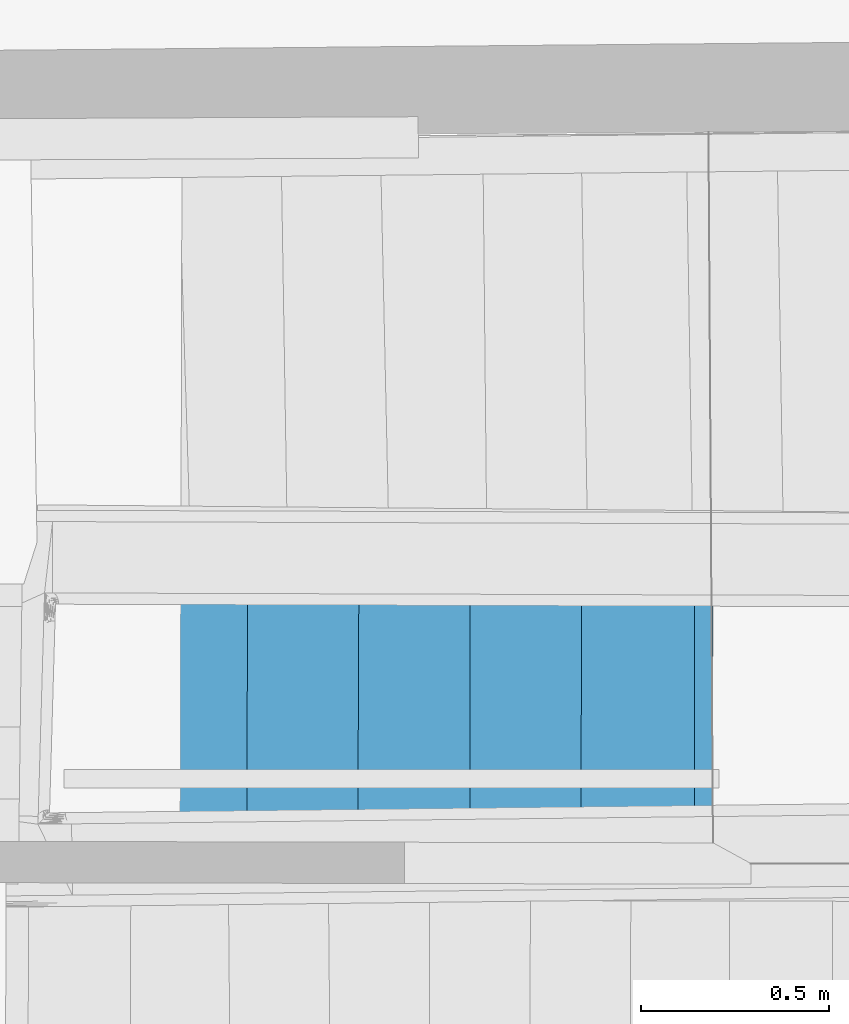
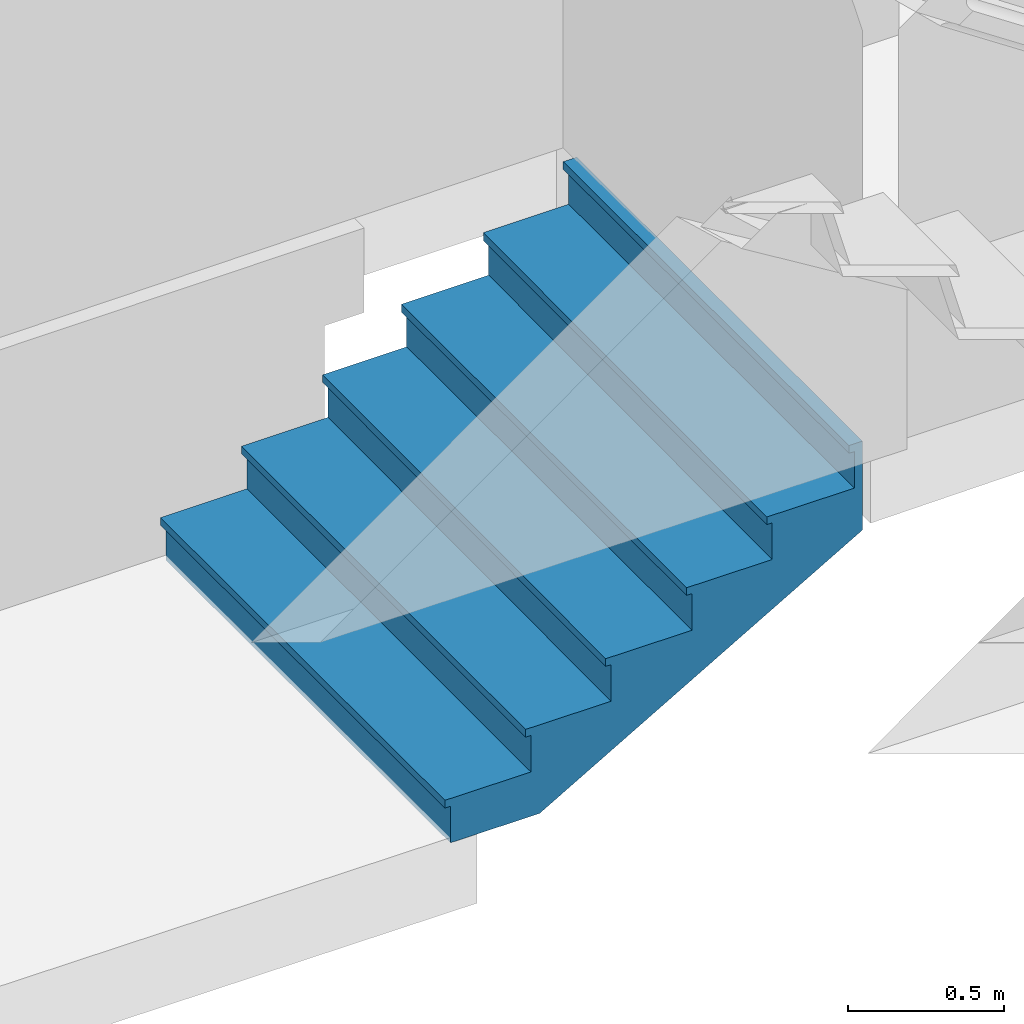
# One storey, part 74 of 97: 1 stair flight, 1 element without a shape of its own.
"""IFC2X3 building model written with IfcOpenShell, lengths in centimetres."""

import ifcopenshell
import ifcopenshell.guid

model = None  # the IFC model being written
_history = None  # IfcOwnerHistory: only IFC2X3 demands one
_inside = {}  # id of a spatial element -> (the spatial element, [elements in it])
_under = {}  # id of a project, library or spatial element -> (it, [spatial elements below it])
_declared = {}  # id of a project -> (the project, [libraries it declares])
_typed = {}  # id of a type object -> (the type object, [elements of that type])
_made_of = {}  # id of a material, layer set ... -> (it, [elements and type objects made of it])


def new_model(schema):
    """Start an empty IFC model of exactly this schema.

    Asked for "IFC4X3", IfcOpenShell would pick the latest addendum, in which some entities
    have other attributes; the version numbers below select the first issue.
    IFC2X3 requires an IfcOwnerHistory on every rooted entity: one is made here for all.
    """
    global model, _history
    if schema == "IFC4X3":
        model = ifcopenshell.file(schema_version=(4, 3, 0, 0))
    else:
        model = ifcopenshell.file(schema=schema)
    _inside.clear()
    _under.clear()
    _declared.clear()
    _typed.clear()
    _made_of.clear()
    _history = None
    if model.schema == "IFC2X3":
        org = make("IfcOrganization", Name="unknown")
        user = make(
            "IfcPersonAndOrganization",
            ThePerson=make("IfcPerson", FamilyName="unknown"),
            TheOrganization=org,
        )
        app = make(
            "IfcApplication",
            ApplicationDeveloper=org,
            Version="unknown",
            ApplicationFullName="unknown",
            ApplicationIdentifier="unknown",
        )
        _history = make(
            "IfcOwnerHistory",
            OwningUser=user,
            OwningApplication=app,
            ChangeAction="ADDED",
            CreationDate=0,
        )
    return model


def make(cls, **values):
    """One entity of the class cls with the attributes given. An attribute that is None is left unset."""
    return model.create_entity(
        cls, **{name: value for name, value in values.items() if value is not None}
    )


def entity(cls, *values):
    """Any entity or typed value of the class cls, its attributes in the order of the schema. None: left unset."""
    e = model.create_entity(cls)
    for i, value in enumerate(values):
        if value is not None:
            e[i] = value
    return e


def rooted(cls, **values):
    """An entity with a GlobalId (a new one), such as an element, a storey or a relation."""
    return make(cls, GlobalId=ifcopenshell.guid.new(), OwnerHistory=_history, **values)


def si_unit(unit_type, name, prefix=None):
    """IfcSIUnit, for example si_unit("LENGTHUNIT", "METRE", prefix="MILLI")."""
    return make("IfcSIUnit", UnitType=unit_type, Prefix=prefix, Name=name)


def converted_unit(unit_type, name, factor, base, dimensions=None, offset=None):
    """IfcConversionBasedUnit, such as the inch: factor (a typed value) times the base unit."""
    return make(
        "IfcConversionBasedUnit"
        if offset is None
        else "IfcConversionBasedUnitWithOffset",
        ConversionOffset=offset,
        Dimensions=None
        if dimensions is None
        else entity("IfcDimensionalExponents", *dimensions),
        UnitType=unit_type,
        Name=name,
        ConversionFactor=make(
            "IfcMeasureWithUnit", ValueComponent=factor, UnitComponent=base
        ),
    )


def assignment(units):
    """IfcUnitAssignment: the units of a project."""
    return None if units is None else make("IfcUnitAssignment", Units=units)


def point(xyz):
    """IfcCartesianPoint."""
    return None if xyz is None else make("IfcCartesianPoint", Coordinates=xyz)


def direction(xyz):
    """IfcDirection."""
    return None if xyz is None else make("IfcDirection", DirectionRatios=xyz)


def frame(location, z_axis=None, x_axis=None):
    """IfcAxis2Placement3D, a coordinate frame: its origin and axes. An axis left out is left unset."""
    return make(
        "IfcAxis2Placement3D",
        Location=point(location),
        Axis=direction(z_axis),
        RefDirection=direction(x_axis),
    )


def origin():
    """The frame at (0, 0, 0) with its axes left unset."""
    return frame((0.0, 0.0, 0.0))


def origin_with_axes():
    """The frame at (0, 0, 0) with the z axis (0, 0, 1) and the x axis (1, 0, 0) written out."""
    return frame((0.0, 0.0, 0.0), z_axis=(0.0, 0.0, 1.0), x_axis=(1.0, 0.0, 0.0))


def place(relative_to, where):
    """IfcLocalPlacement: puts the frame where relative to a parent placement (None: the world)."""
    return make(
        "IfcLocalPlacement", PlacementRelTo=relative_to, RelativePlacement=where
    )


def context(
    kind, dimensions, precision=None, world=None, true_north=None, identifier=None
):
    """IfcGeometricRepresentationContext, for example the 3D "Model" context."""
    return make(
        "IfcGeometricRepresentationContext",
        ContextIdentifier=identifier,
        ContextType=kind,
        CoordinateSpaceDimension=dimensions,
        Precision=precision,
        WorldCoordinateSystem=world,
        TrueNorth=true_north,
    )


def subcontext(parent, identifier, kind, view, scale=None):
    """IfcGeometricRepresentationSubContext, for example "Body" below "Model"."""
    return make(
        "IfcGeometricRepresentationSubContext",
        ContextIdentifier=identifier,
        ContextType=kind,
        ParentContext=parent,
        TargetScale=scale,
        TargetView=view,
    )


def project(units=None, contexts=None):
    """IfcProject with its units and contexts."""
    return rooted(
        "IfcProject",
        Name="project",
        RepresentationContexts=contexts,
        UnitsInContext=assignment(units),
    )


def spatial(cls, under=None, at=None, **own):
    """A site, building, storey or space (cls), placed at a placement, below another one or the project."""
    s = rooted(cls, ObjectPlacement=at, **own)
    if under is not None:
        _under.setdefault(under.id(), (under, []))[1].append(s)
    return s


def faces_of(points, faces, orient=None, outer=None):
    """IfcFace entities. A face is a list of loops; a loop is a list of indices into points, from 0.

    orient and outer hold one flag for each loop. By default every Orientation is true, the
    first loop of a face is its IfcFaceOuterBound and the others are IfcFaceBound.
    """
    made = []
    for i, loops in enumerate(faces):
        bounds = []
        for j, loop in enumerate(loops):
            is_outer = j == 0 if outer is None else outer[i][j]
            bounds.append(
                make(
                    "IfcFaceOuterBound" if is_outer else "IfcFaceBound",
                    Bound=make("IfcPolyLoop", Polygon=[points[k] for k in loop]),
                    Orientation=True if orient is None else orient[i][j],
                )
            )
        made.append(make("IfcFace", Bounds=bounds))
    return made


def faceted_brep(points, faces, orient=None, outer=None, voids=None):
    """IfcFacetedBrep: a solid bounded by flat faces; with voids (closed shells), ...WithVoids."""
    shared = [point(p) for p in points]
    hull = make("IfcClosedShell", CfsFaces=faces_of(shared, faces, orient, outer))
    if voids is None:
        return make("IfcFacetedBrep", Outer=hull)
    return make(
        "IfcFacetedBrepWithVoids",
        Outer=hull,
        Voids=[
            make(cls, CfsFaces=faces_of(shared, fs, o, b)) for cls, fs, o, b in voids
        ],
    )


def shape(context_of_items, identifier, shape_type, items):
    """IfcShapeRepresentation: the items that make up one representation, for example the "Body"."""
    return make(
        "IfcShapeRepresentation",
        ContextOfItems=context_of_items,
        RepresentationIdentifier=identifier,
        RepresentationType=shape_type,
        Items=items,
    )


def material(Name=None, Category=None):
    """IfcMaterial."""
    return make("IfcMaterial", Name=Name, Category=Category)


def made_of(thing, what):
    """Note that an element or type object is made of a material, layer set ...; save() writes the relation."""
    if what is not None:
        _made_of.setdefault(what.id(), (what, []))[1].append(thing)
    return thing


def element(
    cls,
    number,
    at=None,
    inside=None,
    cuts=None,
    type_object=None,
    material=None,
    context=None,
    identifier="Body",
    shape_type=None,
    held_by="IfcProductDefinitionShape",
    body=None,
    shapes=None,
    **own,
):
    """One element of the class cls, such as IfcWall. Its Tag is "e" and its number.

    at: its placement. inside: the storey or other place that contains it. cuts: it is an
    opening in that element (IfcRelVoidsElement). A single representation is given by context,
    identifier, shape_type and body (its items); several are given by shapes. held_by: the class
    of the entity that holds the representations. save() writes the other relations.
    """
    e = rooted(cls, Tag="e%d" % number, ObjectPlacement=at, **own)
    if body is not None:
        shapes = [shape(context, identifier, shape_type, body)]
    if shapes is not None:
        e.Representation = make(held_by, Representations=shapes)
    if inside is not None:
        _inside.setdefault(inside.id(), (inside, []))[1].append(e)
    if cuts is not None:
        rooted(
            "IfcRelVoidsElement", RelatingBuildingElement=cuts, RelatedOpeningElement=e
        )
    if type_object is not None:
        _typed.setdefault(type_object.id(), (type_object, []))[1].append(e)
    return made_of(e, material)


def aggregate(whole, parts):
    """IfcRelAggregates: a whole, such as a stair, and the parts it consists of."""
    return rooted("IfcRelAggregates", RelatingObject=whole, RelatedObjects=parts)


def save(model, path):
    """Write the relations noted so far, then the file.

    IfcRelAggregates (storeys below a building ...), IfcRelContainedInSpatialStructure (elements
    in a storey), IfcRelDefinesByType, IfcRelAssociatesMaterial and IfcRelDeclares: one each for
    every whole, place, type object, material and project.
    """
    for whole, parts in _under.values():
        aggregate(whole, parts)
    for where, things in _inside.values():
        rooted(
            "IfcRelContainedInSpatialStructure",
            RelatedElements=things,
            RelatingStructure=where,
        )
    for kind, things in _typed.values():
        rooted("IfcRelDefinesByType", RelatedObjects=things, RelatingType=kind)
    for what, things in _made_of.values():
        rooted("IfcRelAssociatesMaterial", RelatedObjects=things, RelatingMaterial=what)
    for by, libraries in _declared.values():
        rooted("IfcRelDeclares", RelatingContext=by, RelatedDefinitions=libraries)
    model.write(path)


model = new_model("IFC2X3")

# Units and contexts
model_context = context("Model", 3, precision=0.0001, world=origin(), true_north=direction((0.225632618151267, 0.974212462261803, 0.0)))
body_context = subcontext(model_context, "Body", "Model", "MODEL_VIEW")
ifc_project = project(units=[si_unit("LENGTHUNIT", "METRE", prefix="CENTI"), si_unit("AREAUNIT", "SQUARE_METRE", prefix="CENTI"), si_unit("VOLUMEUNIT", "CUBIC_METRE", prefix="CENTI"), converted_unit("PLANEANGLEUNIT", "DEGREE", entity("IfcRatioMeasure", 0.0174532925), si_unit("PLANEANGLEUNIT", "RADIAN"), dimensions=[0, 0, 0, 0, 0, 0, 0])], contexts=[model_context])

# Site, building, storey
site_placement = place(None, origin_with_axes())
site = spatial("IfcSite", under=ifc_project, at=site_placement, Name="Default Site", CompositionType="ELEMENT")
building_placement = place(site_placement, origin_with_axes())
building = spatial("IfcBuilding", under=site, at=building_placement, Name="Default Building", CompositionType="ELEMENT")
storey_placement = place(building_placement, origin_with_axes())
storey = spatial("IfcBuildingStorey", under=building, at=storey_placement, Name="Rez-de-chaussée", CompositionType="ELEMENT", Elevation=0.0)

# Stair, stair flight
stair_placement = place(storey_placement, frame((-1154.87827411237, -79.6512209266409, -103.715386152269), z_axis=(0.0, 0.0, 1.0), x_axis=(1.0, 0.0, 0.0)))
stair = element("IfcStair", 1, at=stair_placement, inside=storey, Name="Escalier 14692", ShapeType="NOTDEFINED")
ifc_material = material(Name="Rouge asiago")
stair_flight_placement = place(stair_placement, frame((3.92490869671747e-05, 90.9417473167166, 14.2859003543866), z_axis=(0.0, 0.0, 1.0), x_axis=(1.0, 0.0, 0.0)))
stair_flight = element("IfcStairFlight", 2, at=stair_flight_placement, material=ifc_material, Name="4294967265", context=body_context, shape_type="Brep", body=[
    faceted_brep([(-3.00006866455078, 0.0, -14.2858982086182), (0.0, 0.0, -14.2858982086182), (0.0, -181.883490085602, -14.2858982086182), (-3.00006866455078, -181.883490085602, -14.2858982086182), (0.0, 0.0, 0.0), (-3.00006866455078, 0.0, 0.0), (-3.00006866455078, -181.883490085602, 0.0), (0.0, -181.883490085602, 0.0)], [[[0, 1, 2]], [[2, 3, 0]], [[4, 5, 6]], [[6, 7, 4]], [[5, 0, 3]], [[3, 6, 5]], [[4, 1, 0]], [[0, 5, 4]], [[7, 2, 1]], [[1, 4, 7]], [[6, 3, 2]], [[2, 7, 6]]]),
    faceted_brep([(26.9996643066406, 0.109127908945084, 2.99999713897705), (29.9996376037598, 0.104230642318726, 2.99999713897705), (29.7024726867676, -181.944823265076, 2.99999713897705), (26.7024993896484, -181.939923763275, 2.99999713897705), (29.9996376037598, 0.104230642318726, 17.2858953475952), (26.9996643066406, 0.109127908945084, 17.2858953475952), (26.7024993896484, -181.939923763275, 17.2858953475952), (29.7024726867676, -181.944823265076, 17.2858953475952), (26.7024994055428, -181.939923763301, 2.99999713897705), (26.9996642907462, 0.109127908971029, 17.2858953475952), (26.9996643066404, 0.109127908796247, 2.99999713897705), (29.99963760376, 0.104230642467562, 17.2858953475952), (29.9996375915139, 0.104230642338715, 2.99999713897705), (29.7024726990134, -181.944823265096, 17.2858953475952), (29.7024726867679, -181.94482326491, 2.99999713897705), (26.7024993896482, -181.939923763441, 17.2858953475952)], [[[0, 1, 2]], [[2, 3, 0]], [[4, 5, 6]], [[6, 7, 4]], [[5, 0, 8]], [[3, 6, 9]], [[4, 1, 10]], [[0, 5, 11]], [[7, 2, 12]], [[1, 4, 13]], [[6, 3, 14]], [[2, 7, 15]]]),
    faceted_brep([(56.9991111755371, 0.221364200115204, 20.2858924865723), (59.9990844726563, 0.208461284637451, 20.2858924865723), (59.2154502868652, -182.005763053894, 20.2858924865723), (56.2154769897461, -181.992864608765, 20.2858924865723), (59.9990844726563, 0.208461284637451, 34.5717906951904), (56.9991111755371, 0.221364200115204, 34.5717906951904), (56.2154769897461, -181.992864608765, 34.5717906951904), (59.2154502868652, -182.005763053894, 34.5717906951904), (56.215477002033, -181.992864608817, 20.2858924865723), (56.9991111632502, 0.221364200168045, 34.5717906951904), (56.9991111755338, 0.221364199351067, 20.2858924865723), (59.9990844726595, 0.208461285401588, 34.5717906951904), (59.9990844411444, 0.208461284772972, 20.2858924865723), (59.2154503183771, -182.00576305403, 34.5717906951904), (59.2154502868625, -182.005763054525, 20.2858924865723), (56.2154769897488, -181.992864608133, 34.5717906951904)], [[[0, 1, 2]], [[2, 3, 0]], [[4, 5, 6]], [[6, 7, 4]], [[5, 0, 8]], [[3, 6, 9]], [[4, 1, 10]], [[0, 5, 11]], [[7, 2, 12]], [[1, 4, 13]], [[6, 3, 14]], [[2, 7, 15]]]),
    faceted_brep([(86.0681533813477, 0.309458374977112, 37.5717937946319), (89.0681266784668, 0.309458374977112, 37.5717937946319), (89.0681266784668, -182.067406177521, 37.5717937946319), (86.0681533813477, -182.067406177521, 37.5717937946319), (89.0681266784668, 0.309458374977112, 51.8576890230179), (86.0681533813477, 0.309458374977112, 51.8576890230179), (86.0681533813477, -182.067406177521, 51.8576890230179), (89.0681266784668, -182.067406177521, 51.8576890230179)], [[[0, 1, 2]], [[2, 3, 0]], [[4, 5, 6]], [[6, 7, 4]], [[5, 0, 3]], [[3, 6, 5]], [[4, 1, 0]], [[0, 5, 4]], [[7, 2, 1]], [[1, 4, 7]], [[6, 3, 2]], [[2, 7, 6]]]),
    faceted_brep([(116.385173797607, 0.427379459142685, 54.8576891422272), (119.385147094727, 0.414791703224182, 54.8576891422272), (118.619251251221, -182.128417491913, 54.8576891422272), (115.619277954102, -182.115840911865, 54.8576891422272), (119.385147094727, 0.414791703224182, 69.1435888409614), (116.385173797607, 0.427379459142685, 69.1435888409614), (115.619277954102, -182.115840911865, 69.1435888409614), (118.619251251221, -182.128417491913, 69.1435888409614), (115.619277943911, -182.115840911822, 54.8576891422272), (116.385173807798, 0.427379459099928, 69.1435888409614), (116.385173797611, 0.427379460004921, 54.8576891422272), (119.385147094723, 0.414791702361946, 69.1435888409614), (119.38514714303, 0.414791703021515, 54.8576891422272), (118.619251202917, -182.12841749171, 69.1435888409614), (118.61925125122, -182.128417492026, 54.8576891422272), (115.619277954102, -182.115840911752, 69.1435888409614)], [[[0, 1, 2]], [[2, 3, 0]], [[4, 5, 6]], [[6, 7, 4]], [[5, 0, 8]], [[3, 6, 9]], [[4, 1, 10]], [[0, 5, 11]], [[7, 2, 12]], [[1, 4, 13]], [[6, 3, 14]], [[2, 7, 15]]]),
    faceted_brep([(145.913887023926, 0.517386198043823, 72.1435874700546), (148.913860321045, 0.517386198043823, 72.1435874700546), (148.913860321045, -182.190978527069, 72.1435874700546), (145.913887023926, -182.190978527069, 72.1435874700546), (148.913860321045, 0.517386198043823, 86.4294858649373), (145.913887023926, 0.517386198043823, 86.4294858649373), (145.913887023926, -182.190978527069, 86.4294858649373), (148.913860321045, -182.190978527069, 86.4294858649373)], [[[0, 1, 2]], [[2, 3, 0]], [[4, 5, 6]], [[6, 7, 4]], [[5, 0, 3]], [[3, 6, 5]], [[4, 1, 0]], [[0, 5, 4]], [[7, 2, 1]], [[1, 4, 7]], [[6, 3, 2]], [[2, 7, 6]]]),
    faceted_brep([(0.0, -181.883490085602, -14.2858982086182), (0.0, -181.883490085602, 0.0), (0.0, 0.0, 0.0), (0.0, 0.0, -14.2858982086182), (29.7024726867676, -181.944823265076, 0.0), (29.7024726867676, -181.944823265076, 17.2858953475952), (29.9996375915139, 0.104230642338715, 17.2858953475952), (29.9996376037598, 0.104230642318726, 17.2858953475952), (29.9996376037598, 0.104230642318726, 0.0), (29.7024726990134, -181.944823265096, 0.0), (59.2154502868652, -182.005763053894, 17.2858953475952), (59.2154502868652, -182.005763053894, 34.5717906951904), (59.9990844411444, 0.208461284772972, 34.5717906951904), (59.9990844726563, 0.208461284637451, 34.5717906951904), (59.9990844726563, 0.208461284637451, 17.2858953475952), (59.2154503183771, -182.00576305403, 17.2858953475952), (89.0681266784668, -182.067406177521, 34.5717906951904), (89.0681266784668, -182.067406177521, 51.8576890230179), (89.0681266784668, 0.309458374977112, 51.8576890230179), (89.0681266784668, 0.309458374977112, 34.5717906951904), (118.619251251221, -182.128417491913, 51.8576890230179), (118.619251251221, -182.128417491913, 69.1435888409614), (119.38514714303, 0.414791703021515, 69.1435888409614), (119.385147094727, 0.414791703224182, 69.1435888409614), (119.385147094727, 0.414791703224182, 51.8576890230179), (118.619251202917, -182.12841749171, 51.8576890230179), (148.913860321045, -182.190978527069, 69.1435888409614), (148.913860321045, 0.517386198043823, 69.1435888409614), (148.913860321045, -182.190978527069, 54.8001855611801), (148.913860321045, 0.517386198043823, 54.8001855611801), (29.8818588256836, 0.103821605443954, -14.2858982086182), (29.8818588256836, -181.945192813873, -14.2858982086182), (148.913860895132, 0.517386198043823, 54.8001845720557), (148.913860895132, -182.190978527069, 54.8001845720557), (29.8818582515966, -181.945192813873, -14.2858972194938), (29.8818582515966, 0.103821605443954, -14.2858972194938), (29.7024726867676, -181.944823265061, 8.69908251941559e-19), (4.95093747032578e-12, -181.883490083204, -14.2858982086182), (29.8818588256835, -181.945192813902, -14.2858982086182), (29.8818588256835, -181.945192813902, 17.2858953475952), (29.7024726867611, -181.944823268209, 0.0), (59.2154502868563, -182.005763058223, 17.2858953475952), (29.8818588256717, -181.945192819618, -14.2858982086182), (148.913860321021, -182.190978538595, 54.8001855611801), (89.0681266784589, -182.067406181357, 34.5717906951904), (148.913860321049, -182.190978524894, 54.8001855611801), (118.619251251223, -182.128417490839, 51.8576890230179), (148.913860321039, -182.19097852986, 54.8001855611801), (148.913860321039, -182.19097852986, 69.1435888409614), (118.619251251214, -182.128417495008, 51.8576890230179), (89.0681266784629, -182.067406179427, 34.5717906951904), (29.8818588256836, -181.945192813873, 17.2858953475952), (59.2154502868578, -182.005763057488, 17.2858953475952), (29.8818588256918, 0.103821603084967, 0.0), (29.8818588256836, 0.103821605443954, 0.0), (-8.19607226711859e-12, 2.35898760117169e-09, -14.2858982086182), (29.9996376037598, 0.104230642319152, 5.20118287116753e-21), (148.913860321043, 0.51738619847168, 54.8001855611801), (29.8818588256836, 0.103821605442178, -14.2858982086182), (29.8818588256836, 0.103821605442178, -6.01880896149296e-33), (29.9996376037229, 0.104230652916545, -1.74256580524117e-15), (59.9990844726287, 0.208461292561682, 17.2858953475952), (29.9996376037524, 0.104230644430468, -1.83439001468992e-27), (29.9996376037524, 0.104230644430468, 17.2858953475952), (59.9990844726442, 0.208461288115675, 17.2858953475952), (89.0681266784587, 0.309458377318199, 34.5717906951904), (59.9990844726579, 0.208461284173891, 17.2858953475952), (59.9990844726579, 0.208461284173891, 34.5717906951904), (89.0681266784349, 0.309458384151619, 34.5717906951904), (119.385147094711, 0.41479170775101, 51.8576890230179), (89.0681266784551, 0.309458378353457, 34.5717906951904), (89.0681266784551, 0.309458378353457, 51.8576890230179), (119.385147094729, 0.414791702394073, 51.8576890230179), (119.385147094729, 0.414791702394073, 69.1435888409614)], [[[0, 1, 2]], [[2, 3, 0]], [[4, 5, 6]], [[7, 8, 9]], [[10, 11, 12]], [[13, 14, 15]], [[16, 17, 18]], [[18, 19, 16]], [[20, 21, 22]], [[23, 24, 25]], [[2, 1, 4]], [[4, 8, 2]], [[7, 5, 10]], [[10, 14, 7]], [[13, 11, 16]], [[16, 19, 13]], [[18, 17, 20]], [[20, 24, 18]], [[23, 21, 26]], [[26, 27, 23]], [[26, 28, 29]], [[29, 27, 26]], [[3, 30, 31]], [[31, 0, 3]], [[30, 32, 33]], [[28, 34, 35]], [[31, 36, 37]], [[4, 38, 39]], [[4, 39, 5]], [[1, 0, 40]], [[28, 41, 42]], [[10, 43, 44]], [[16, 45, 46]], [[20, 47, 21]], [[21, 47, 48]], [[17, 16, 49]], [[11, 10, 50]], [[51, 31, 52]], [[3, 2, 53]], [[54, 30, 55]], [[30, 56, 57]], [[8, 58, 59]], [[29, 60, 61]], [[14, 62, 63]], [[29, 64, 65]], [[19, 66, 67]], [[29, 68, 69]], [[24, 70, 71]], [[29, 72, 73]], [[29, 73, 27]]]),
    faceted_brep([(-5.00001907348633, -0.0173717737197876, 2.99999713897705), (-5.00001907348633, -181.873166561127, 2.99999713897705), (29.7024726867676, -181.944823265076, 2.99999713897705), (29.9996376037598, 0.104230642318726, 2.99999713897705), (29.7024726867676, -181.944823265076, 0.0), (-5.00001907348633, -181.873166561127, 0.0), (-5.00001907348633, -0.0173717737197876, 0.0), (29.9996376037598, 0.104230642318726, 0.0), (-5.00001907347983, -181.87316655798, 2.99999713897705), (29.7024726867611, -181.944823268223, 0.0), (29.7024726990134, -181.944823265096, 2.99999713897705), (29.9996375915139, 0.104230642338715, 0.0), (29.9996376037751, 0.104230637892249, 2.99999713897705), (-5.00001907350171, -0.0173717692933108, 0.0)], [[[0, 1, 2]], [[2, 3, 0]], [[4, 5, 6]], [[6, 7, 4]], [[5, 1, 0]], [[0, 6, 5]], [[4, 2, 8]], [[1, 5, 9]], [[7, 3, 10]], [[2, 4, 11]], [[6, 0, 12]], [[3, 7, 13]]]),
    faceted_brep([(24.9996185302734, 0.086858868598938, 20.2858924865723), (24.7024536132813, -181.93666934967, 20.2858924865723), (59.2154502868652, -182.005763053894, 20.2858924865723), (59.9990844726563, 0.208461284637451, 20.2858924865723), (59.2154502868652, -182.005763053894, 17.2858953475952), (24.7024536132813, -181.93666934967, 17.2858953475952), (24.9996185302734, 0.086858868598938, 17.2858953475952), (59.9990844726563, 0.208461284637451, 17.2858953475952), (24.9996185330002, 0.0868588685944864, 20.2858924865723), (24.7024536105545, -181.936669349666, 17.2858953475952), (24.7024536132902, -181.936669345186, 20.2858924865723), (59.2154502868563, -182.005763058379, 17.2858953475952), (59.2154503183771, -182.00576305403, 20.2858924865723), (59.9990844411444, 0.208461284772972, 17.2858953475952), (59.9990844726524, 0.208461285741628, 20.2858924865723), (24.9996185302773, 0.0868588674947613, 17.2858953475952)], [[[0, 1, 2]], [[2, 3, 0]], [[4, 5, 6]], [[6, 7, 4]], [[5, 1, 8]], [[0, 6, 9]], [[4, 2, 10]], [[1, 5, 11]], [[7, 3, 12]], [[2, 4, 13]], [[6, 0, 14]], [[3, 7, 15]]]),
    faceted_brep([(54.9989700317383, 0.191088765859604, 37.5717937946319), (54.2154312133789, -181.995439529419, 37.5717937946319), (89.0681266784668, -182.067406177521, 37.5717937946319), (89.0681266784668, 0.309458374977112, 37.5717937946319), (89.0681266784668, -182.067406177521, 34.5717906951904), (54.2154312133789, -181.995439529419, 34.5717906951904), (54.9989700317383, 0.191088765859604, 34.5717906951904), (89.0681266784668, 0.309458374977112, 34.5717906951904), (54.9989700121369, 0.191088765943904, 37.5717937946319), (54.2154312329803, -181.995439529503, 34.5717906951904), (54.2154312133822, -181.995439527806, 37.5717937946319), (89.0681266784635, -182.067406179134, 34.5717906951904), (89.068126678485, 0.309458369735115, 37.5717937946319), (54.9989700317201, 0.191088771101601, 34.5717906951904)], [[[0, 1, 2]], [[2, 3, 0]], [[4, 5, 6]], [[6, 7, 4]], [[5, 1, 8]], [[0, 6, 9]], [[4, 2, 10]], [[1, 5, 11]], [[7, 3, 2]], [[2, 4, 7]], [[6, 0, 12]], [[3, 7, 13]]]),
    faceted_brep([(84.0682029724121, 0.292086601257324, 54.8576891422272), (84.0682029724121, -182.057082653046, 54.8576891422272), (118.619251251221, -182.128417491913, 54.8576891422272), (119.385147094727, 0.414791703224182, 54.8576891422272), (118.619251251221, -182.128417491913, 51.8576890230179), (84.0682029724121, -182.057082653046, 51.8576890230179), (84.0682029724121, 0.292086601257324, 51.8576890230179), (119.385147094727, 0.414791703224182, 51.8576890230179), (84.0682029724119, -182.057082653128, 54.8576891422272), (118.619251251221, -182.12841749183, 51.8576890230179), (118.619251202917, -182.12841749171, 54.8576891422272), (119.38514714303, 0.414791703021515, 51.8576890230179), (119.385147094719, 0.414791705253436, 54.8576891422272), (84.0682029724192, 0.292086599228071, 51.8576890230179)], [[[0, 1, 2]], [[2, 3, 0]], [[4, 5, 6]], [[6, 7, 4]], [[5, 1, 0]], [[0, 6, 5]], [[4, 2, 8]], [[1, 5, 9]], [[7, 3, 10]], [[2, 4, 11]], [[6, 0, 12]], [[3, 7, 13]]]),
    faceted_brep([(114.385032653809, 0.397419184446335, 72.1435874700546), (113.619232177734, -182.118093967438, 72.1435874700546), (148.913860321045, -182.190978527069, 72.1435874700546), (148.913860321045, 0.517386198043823, 72.1435874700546), (148.913860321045, -182.190978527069, 69.1435888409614), (113.619232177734, -182.118093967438, 69.1435888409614), (114.385032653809, 0.397419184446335, 69.1435888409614), (148.913860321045, 0.517386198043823, 69.1435888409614), (114.385032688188, 0.397419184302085, 72.1435874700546), (113.619232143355, -182.118093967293, 69.1435888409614), (113.61923217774, -182.118093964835, 72.1435874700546), (148.91386032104, -182.190978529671, 69.1435888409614), (148.913860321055, 0.517386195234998, 72.1435874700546), (114.385032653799, 0.39741918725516, 69.1435888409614)], [[[0, 1, 2]], [[2, 3, 0]], [[4, 5, 6]], [[6, 7, 4]], [[5, 1, 8]], [[0, 6, 9]], [[4, 2, 10]], [[1, 5, 11]], [[7, 3, 2]], [[2, 4, 7]], [[6, 0, 12]], [[3, 7, 13]]]),
    faceted_brep([(143.913841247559, -182.190978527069, 89.4294857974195), (148.913860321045, -182.190978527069, 89.4294857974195), (148.913860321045, 0.517386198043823, 89.4294857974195), (143.913841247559, 0.517386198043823, 89.4294857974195), (148.913860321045, -182.190978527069, 86.4294858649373), (143.913841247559, -182.190978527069, 86.4294858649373), (143.913841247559, 0.517386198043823, 86.4294858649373), (148.913860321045, 0.517386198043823, 86.4294858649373)], [[[0, 1, 2]], [[2, 3, 0]], [[4, 5, 6]], [[6, 7, 4]], [[5, 0, 3]], [[3, 6, 5]], [[4, 1, 0]], [[0, 5, 4]], [[7, 2, 1]], [[1, 4, 7]], [[6, 3, 2]], [[2, 7, 6]]]),
])
aggregate(stair, [stair_flight])

save(model, "model.ifc")
